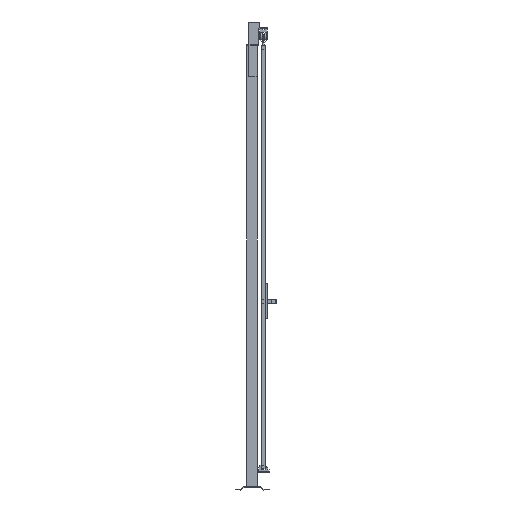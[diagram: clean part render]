
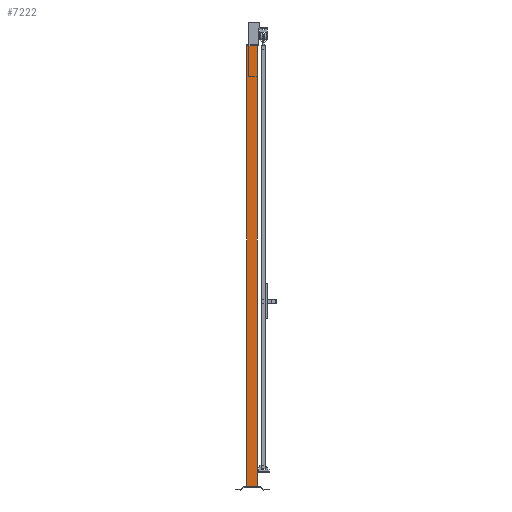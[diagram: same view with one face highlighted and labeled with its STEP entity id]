
A CAD part, left-side view. The second image highlights one B-rep face of the part: STEP entity #7222.
In plain terms, the highlighted planar face has unit normal (-1, 0, 0).
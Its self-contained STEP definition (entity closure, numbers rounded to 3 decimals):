
#584=FACE_OUTER_BOUND('',#1094,.T.);
#1094=EDGE_LOOP('',(#4245,#4246,#4247,#4248));
#1643=VERTEX_POINT('',#14567);
#1644=VERTEX_POINT('',#14569);
#1647=VERTEX_POINT('',#14576);
#1648=VERTEX_POINT('',#14578);
#2711=EDGE_CURVE('',#1643,#1644,#8232,.T.);
#2715=EDGE_CURVE('',#1647,#1648,#8236,.T.);
#2717=EDGE_CURVE('',#1644,#1647,#8238,.T.);
#2719=EDGE_CURVE('',#1643,#1648,#8240,.T.);
#4245=ORIENTED_EDGE('',*,*,#2719,.T.);
#4246=ORIENTED_EDGE('',*,*,#2715,.F.);
#4247=ORIENTED_EDGE('',*,*,#2717,.F.);
#4248=ORIENTED_EDGE('',*,*,#2711,.F.);
#6764=PLANE('',#10705);
#7222=ADVANCED_FACE('',(#584),#6764,.F.);
#8232=LINE('',#14570,#9531);
#8236=LINE('',#14579,#9535);
#8238=LINE('',#14582,#9537);
#8240=LINE('',#14585,#9539);
#9531=VECTOR('',#11635,1.);
#9535=VECTOR('',#11641,1.);
#9537=VECTOR('',#11645,1.);
#9539=VECTOR('',#11649,1.);
#10705=AXIS2_PLACEMENT_3D('',#14584,#11647,#11648);
#11635=DIRECTION('',(0.,-1.,0.));
#11641=DIRECTION('',(0.,1.,0.));
#11645=DIRECTION('',(0.,0.,-1.));
#11647=DIRECTION('center_axis',(1.,0.,0.));
#11648=DIRECTION('ref_axis',(0.,0.,-1.));
#11649=DIRECTION('',(0.,0.,-1.));
#14567=CARTESIAN_POINT('',(-30.,30.,2520.));
#14569=CARTESIAN_POINT('',(-30.,-30.,2520.));
#14570=CARTESIAN_POINT('',(-30.,0.,2520.));
#14576=CARTESIAN_POINT('',(-30.,-30.,20.));
#14578=CARTESIAN_POINT('',(-30.,30.,20.));
#14579=CARTESIAN_POINT('',(-30.,0.,20.));
#14582=CARTESIAN_POINT('',(-30.,-30.,1270.));
#14584=CARTESIAN_POINT('Origin',(-30.,0.,
1270.));
#14585=CARTESIAN_POINT('',(-30.,30.,1270.));
